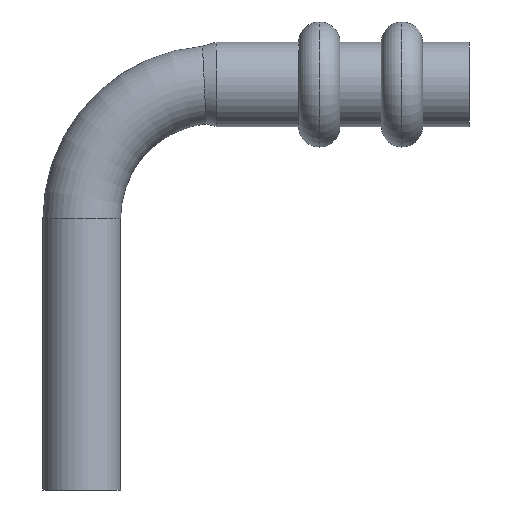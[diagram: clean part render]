
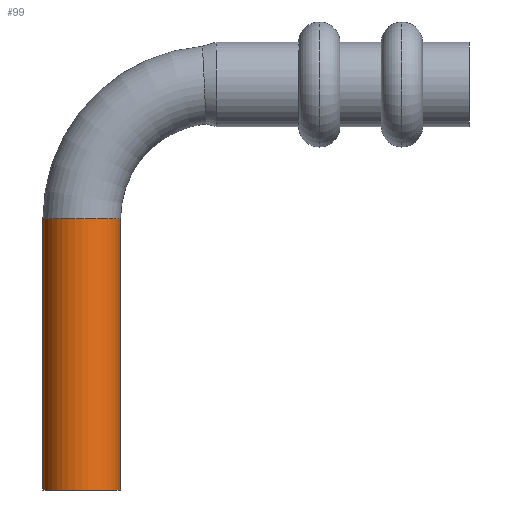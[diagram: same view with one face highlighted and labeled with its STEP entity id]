
A CAD part, front view. The second image highlights one B-rep face of the part: STEP entity #99.
In plain terms, the highlighted cylindrical face has radius 3.758 mm (diameter 7.515 mm), a partial arc.
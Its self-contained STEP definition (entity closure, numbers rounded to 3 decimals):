
#99=ADVANCED_FACE('',(#232),#233,.T.);
#232=FACE_OUTER_BOUND('',#407,.T.);
#233=CYLINDRICAL_SURFACE('',#408,3.758);
#407=EDGE_LOOP('',(#636,#637,#638,#639,#640));
#408=AXIS2_PLACEMENT_3D('',#641,#642,#643);
#636=ORIENTED_EDGE('',*,*,#1020,.F.);
#637=ORIENTED_EDGE('',*,*,#979,.F.);
#638=ORIENTED_EDGE('',*,*,#978,.F.);
#639=ORIENTED_EDGE('',*,*,#1021,.F.);
#640=ORIENTED_EDGE('',*,*,#1022,.F.);
#641=CARTESIAN_POINT('',(0.,0.0,13.504));
#642=DIRECTION('',(0.,0.0,-1.0));
#643=DIRECTION('',(1.0,0.0,0.));
#978=EDGE_CURVE('',#1145,#1148,#1149,.T.);
#979=EDGE_CURVE('',#1148,#1150,#1151,.T.);
#1020=EDGE_CURVE('',#1150,#1212,#1213,.T.);
#1021=EDGE_CURVE('',#1214,#1145,#1215,.T.);
#1022=EDGE_CURVE('',#1212,#1214,#1216,.T.);
#1145=VERTEX_POINT('',#1476);
#1148=VERTEX_POINT('',#1479);
#1149=CIRCLE('',#1480,3.758);
#1150=VERTEX_POINT('',#1481);
#1151=CIRCLE('',#1482,3.758);
#1212=VERTEX_POINT('',#1564);
#1213=LINE('',#1565,#1566);
#1214=VERTEX_POINT('',#1567);
#1215=LINE('',#1568,#1569);
#1216=CIRCLE('',#1570,3.758);
#1476=CARTESIAN_POINT('',(-3.758,0.,26.5));
#1479=CARTESIAN_POINT('',(0.,-3.758,26.5));
#1480=AXIS2_PLACEMENT_3D('',#1857,#1858,#1859);
#1481=CARTESIAN_POINT('',(3.758,0.,26.5));
#1482=AXIS2_PLACEMENT_3D('',#1860,#1861,#1862);
#1564=CARTESIAN_POINT('',(3.758,0.0,0.254));
#1565=CARTESIAN_POINT('',(3.758,0.,13.504));
#1566=VECTOR('',#1946,1.0);
#1567=CARTESIAN_POINT('',(-3.758,0.,0.254));
#1568=CARTESIAN_POINT('',(-3.758,0.,13.504));
#1569=VECTOR('',#1947,1.0);
#1570=AXIS2_PLACEMENT_3D('',#1948,#1949,#1950);
#1857=CARTESIAN_POINT('',(0.0,0.,26.5));
#1858=DIRECTION('',(0.,0.,1.0));
#1859=DIRECTION('',(-1.0,0.,0.));
#1860=CARTESIAN_POINT('',(0.0,0.,26.5));
#1861=DIRECTION('',(0.,0.,1.0));
#1862=DIRECTION('',(-1.0,0.,0.));
#1946=DIRECTION('',(0.,0.0,-1.0));
#1947=DIRECTION('',(0.,-0.0,1.0));
#1948=CARTESIAN_POINT('',(0.0,0.0,0.254));
#1949=DIRECTION('',(0.,0.0,-1.0));
#1950=DIRECTION('',(1.0,0.0,0.));
